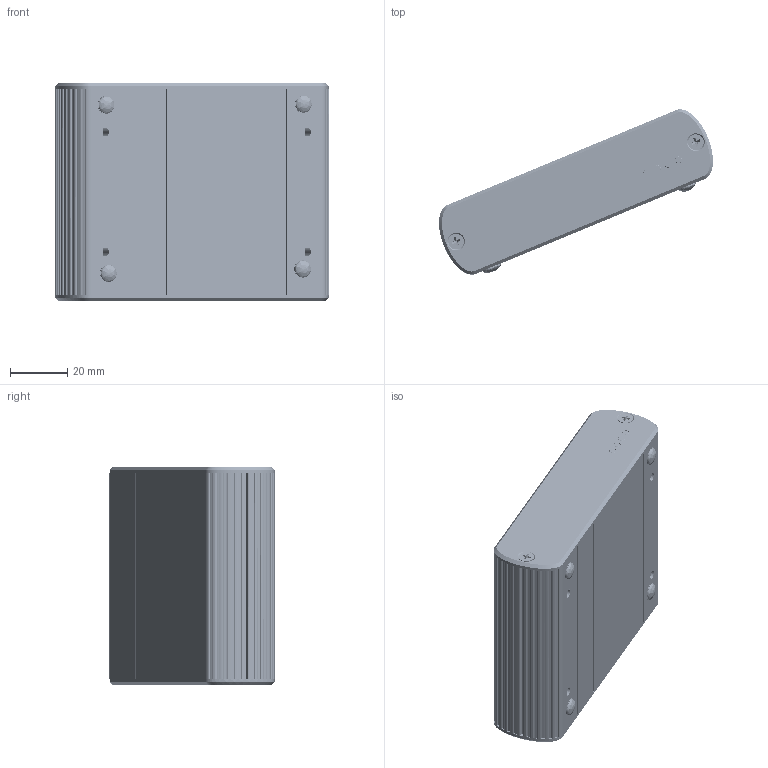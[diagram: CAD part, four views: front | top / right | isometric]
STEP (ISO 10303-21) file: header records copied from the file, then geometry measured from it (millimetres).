
FILE_DESCRIPTION (( 'STEP AP214' ), '1' );
FILE_NAME ('2304LEX3D.STEP', '2019-06-21T18:54:40', ( '' ), ( '' ), 'SwSTEP 2.0', 'SolidWorks 2017', '' );
FILE_SCHEMA (( 'AUTOMOTIVE_DESIGN' ));
Length unit declared in the file: millimetre
Products named in the file (117): RB1-C110_2_ANY_1; TSW-106-07-T-S; User Library-R SMD 0805_0805 OPIS; 31-00068-A02_2; RB1-M0_ANY_ASM_1_ASM; product_3; SML_2012; TP_M1; USB-B-S-F-B-TH; 30-00116_3; RB1-C130____S___ANY_ASM_1_ASM; TSOT23-5; User Library-D_1006_Cut; RES8_0402; QFN64_900X900_50; _USB-B-S-TH_P; RB1-P21X_LCP_______O___ANY_1; User Library-Panasonic0603; LED0603; RB1-C140_TYPE_B_FOR_RDX_ANY_1; SOT23; BOARD_OUTLINE; User Library-INDC2012X___; User Library-User Library-RES0402-2; User Library-ind_1206; 18-225; User Library-INDC1608X___; User Library-minijack; SMR_0805; ATE_TP; FID100_300; User Library-BGA 144; C-1825027-5; User Library-R SMD 0805; TH_USB_B; 2304-REX_20151014_3_3; ___J2-76296_1; RB1-C130____S___4_ANY_ASM_1_ASM; SLP1210N6; User Library-SOT363-2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
Assembly tree (323 placements, depth 10):
  2304LEX3D
    2304 LEX 3D Silver
      2304-REX_20151014_4_3
      31-00068-A02_2
      2304-REX_20151014_3_3
      30-00109-B01_3
      31-00035-B05a_2
      flat head screw_am_B18.6.7M - M3 x 0.5 x 8 Type I Cross Recessed FHMS --8S_2  x4
      30-00394-A02_3
      30-00116_3  x4
    41-00220-A03-LEX
      BOARD_OUTLINE
      COMPONENTS
        DSW-PUSH-D
          C-1825027-5
        SLP1210N6
          User Library-SLP1210N6
        SMC_0402  x75
          User Library-CerCaps
        SML_1206
          User Library-ind_1206
        FID100_300  x8
        RJ45_GIGA
          40-00248
            40-00248_ASM_1_ASM
              RB1-M0_ANY_ASM_1_ASM
                RB1-M110_IP_10_OP6_2TH_ROW__ANY_ASM
                  RB1-C140_TYPE_B_FOR_RDX_ANY_1  x6
                  RB1-C120____D_____S_ANY_1  x5
                  RB1-C130____S___5_ANY_1
                  RB1-C130____S___4_ANY_ASM_1_ASM
                  RB1-C130____S___3_ANY_ASM_1_ASM
                  RB1-C130____S___2_ANY_ASM_1_ASM
                  RB1-C130____S___ANY_ASM_1_ASM
              Z26-RB10_9F1_ANY_1
              RB1-C110_L___A_ANY_ASM_1_ASM
                RB1-C110_1_ANY_1
                RB1-C110_2_ANY_1
                RB1-C110_3_ANY_1
                RB1-C110_4_ANY_1
                RB1-C110_5_ANY_1
                RB1-C110_6_ANY_1
                RB1-C110_7_ANY_1
                RB1-C110_8_ANY_1
              RB1-P21X_LCP_______O___ANY_1
              RB1-S11X_ALL_SPRING_1_0_R_LEG_L
              RDA-LED_-__________L___4_06_ANY
              RDA-LED_-____________4_06_ANY_1
              CAPACITOR-2KV-RDM_ANY_1
        LED0603  x4
          18-225
        BGA144_10X10_080
          User Library-BGA 144
        SMC_0603  x15
          User Library-CerCaps_2
        SML_0603  x5
          User Library-INDC1608X___
        QFN64_900X900_50
          User Library-QFN64-2
        RES8_0402  x2
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Bounding box: 96.03 x 57.91 x 76.1 mm (x, y, z)
Volume: 65314.5 mm3; surface area: 79493.2 mm2
Topology: 618 solids, 844 shells, 25184 faces, 60521 edges, 35316 vertices
Faces by surface type: plane 12834, cylinder 6825, bspline 5233, cone 284, torus 4, sphere 4
Entity records: 298091 total; most frequent: CARTESIAN_POINT 64171, ORIENTED_EDGE 37341, DIRECTION 34566, EDGE_CURVE 18684, VECTOR 13676, LINE 13676, VERTEX_POINT 12001, AXIS2_PLACEMENT_3D 10445
